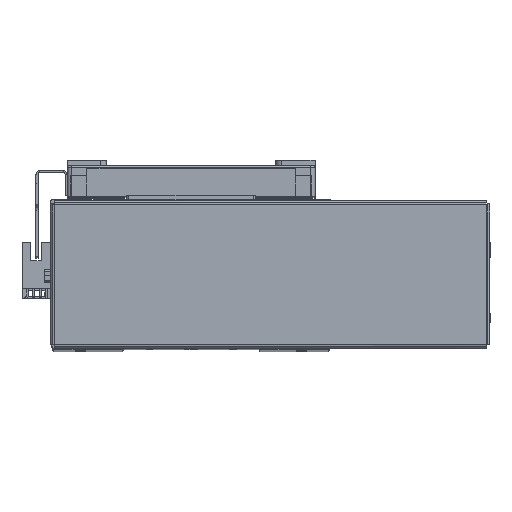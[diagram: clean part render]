
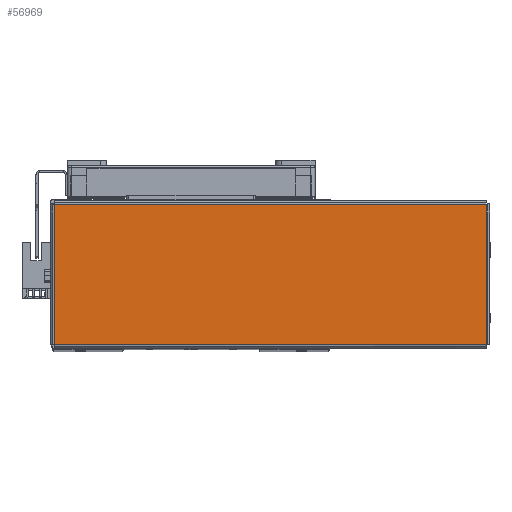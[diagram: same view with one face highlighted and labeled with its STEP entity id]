
A CAD part, top view. The second image highlights one B-rep face of the part: STEP entity #56969.
In plain terms, the highlighted planar face has unit normal (0, 0, 1) as drawn and (0, -1, 0) by its records, which use the part's own axes.
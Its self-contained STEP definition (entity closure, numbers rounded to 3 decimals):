
#660 = VERTEX_POINT ( 'NONE', #48542 ) ;
#661 = VERTEX_POINT ( 'NONE', #48545 ) ;
#686 = VERTEX_POINT ( 'NONE', #48636 ) ;
#704 = VERTEX_POINT ( 'NONE', #48655 ) ;
#1382 = DIRECTION ( 'NONE',  ( 0., 1., 0. ) ) ;
#1384 = DIRECTION ( 'NONE',  ( 0., 0., 1. ) ) ;
#1413 = PLANE ( 'NONE',  #46581 ) ;
#1429 = CARTESIAN_POINT ( 'NONE',  ( 0., -1., 0. ) ) ;
#2387 = DIRECTION ( 'NONE',  ( 1., 0., 0. ) ) ;
#2478 = CARTESIAN_POINT ( 'NONE',  ( -103.793, -1., -33.763 ) ) ;
#2703 = FACE_OUTER_BOUND ( 'NONE', #62824, .T. ) ;
#15538 = LINE ( 'NONE', #20985, #15553 ) ;
#15553 = VECTOR ( 'NONE', #20972, 1000. ) ;
#15668 = LINE ( 'NONE', #21088, #15691 ) ;
#15691 = VECTOR ( 'NONE', #21094, 1000. ) ;
#15728 = VECTOR ( 'NONE', #21251, 1000. ) ;
#15761 = LINE ( 'NONE', #21288, #15728 ) ;
#15880 = LINE ( 'NONE', #2478, #15931 ) ;
#15931 = VECTOR ( 'NONE', #2387, 1000. ) ;
#20972 = DIRECTION ( 'NONE',  ( 0., 0., 1. ) ) ;
#20985 = CARTESIAN_POINT ( 'NONE',  ( 103.763, -1., -33.793 ) ) ;
#21088 = CARTESIAN_POINT ( 'NONE',  ( 103.793, -1., 33.763 ) ) ;
#21094 = DIRECTION ( 'NONE',  ( -1., 0., 0. ) ) ;
#21251 = DIRECTION ( 'NONE',  ( 0., 0., -1. ) ) ;
#21288 = CARTESIAN_POINT ( 'NONE',  ( -103.763, -1., 33.793 ) ) ;
#41444 = EDGE_CURVE ( 'NONE', #661, #686, #15538, .T. ) ;
#41489 = EDGE_CURVE ( 'NONE', #686, #704, #15668, .T. ) ;
#41547 = EDGE_CURVE ( 'NONE', #704, #660, #15761, .T. ) ;
#41717 = EDGE_CURVE ( 'NONE', #660, #661, #15880, .T. ) ;
#46581 = AXIS2_PLACEMENT_3D ( 'NONE', #1429, #1382, #1384 ) ;
#48542 = CARTESIAN_POINT ( 'NONE',  ( -103.763, -1., -33.763 ) ) ;
#48545 = CARTESIAN_POINT ( 'NONE',  ( 103.763, -1., -33.763 ) ) ;
#48636 = CARTESIAN_POINT ( 'NONE',  ( 103.763, -1., 33.763 ) ) ;
#48655 = CARTESIAN_POINT ( 'NONE',  ( -103.763, -1., 33.763 ) ) ;
#54382 = ORIENTED_EDGE ( 'NONE', *, *, #41547, .T. ) ;
#54387 = ORIENTED_EDGE ( 'NONE', *, *, #41717, .T. ) ;
#54428 = ORIENTED_EDGE ( 'NONE', *, *, #41444, .T. ) ;
#54434 = ORIENTED_EDGE ( 'NONE', *, *, #41489, .T. ) ;
#56969 = ADVANCED_FACE ( 'NONE', ( #2703 ), #1413, .F. ) ;
#62824 = EDGE_LOOP ( 'NONE', ( #54434, #54382, #54387, #54428 ) ) ;
